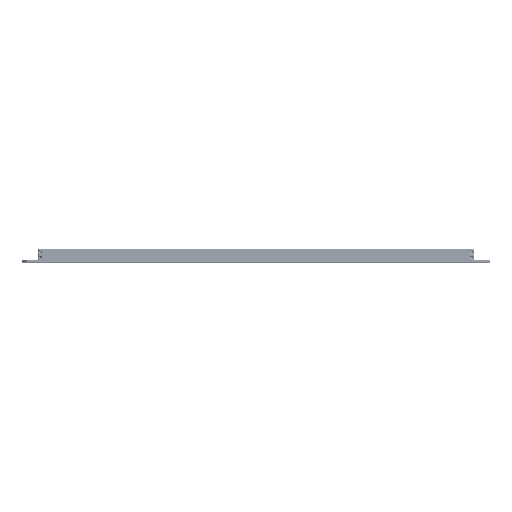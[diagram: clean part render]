
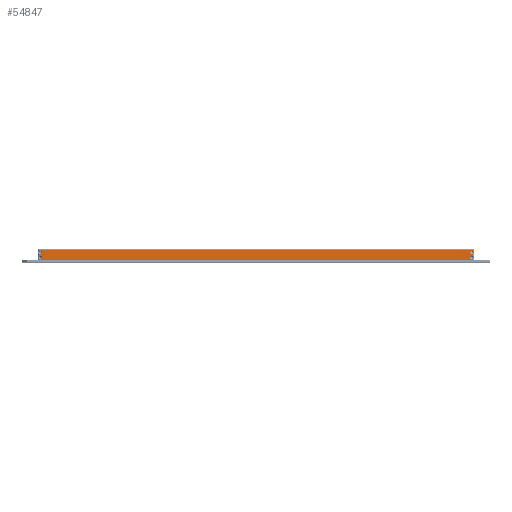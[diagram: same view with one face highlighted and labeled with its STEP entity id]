
A CAD part, top view. The second image highlights one B-rep face of the part: STEP entity #54847.
In plain terms, the highlighted planar face has unit normal (0, 0, 1).
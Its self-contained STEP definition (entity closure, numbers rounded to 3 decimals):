
#327 = CARTESIAN_POINT ( 'NONE',  ( 400.7, 5., 8. ) ) ;
#489 = DIRECTION ( 'NONE',  ( 0., 0., 1. ) ) ;
#1541 = DIRECTION ( 'NONE',  ( 0., 1., 0. ) ) ;
#1639 = EDGE_CURVE ( 'NONE', #73452, #92652, #13986, .T. ) ;
#1817 = VERTEX_POINT ( 'NONE', #12884 ) ;
#2917 = VERTEX_POINT ( 'NONE', #9311 ) ;
#3929 = VERTEX_POINT ( 'NONE', #173608 ) ;
#4392 = DIRECTION ( 'NONE',  ( 0., 0., 1. ) ) ;
#5720 = CARTESIAN_POINT ( 'NONE',  ( -404., 5., 8. ) ) ;
#6444 = EDGE_CURVE ( 'NONE', #96004, #97749, #76561, .T. ) ;
#6685 = VERTEX_POINT ( 'NONE', #77256 ) ;
#6818 = ORIENTED_EDGE ( 'NONE', *, *, #6444, .T. ) ;
#7131 = CARTESIAN_POINT ( 'NONE',  ( -407., 0., 8. ) ) ;
#9163 = EDGE_CURVE ( 'NONE', #73452, #96004, #36828, .T. ) ;
#9311 = CARTESIAN_POINT ( 'NONE',  ( -407., -3.625, 8. ) ) ;
#10284 = CARTESIAN_POINT ( 'NONE',  ( 407., -9., 8. ) ) ;
#11848 = CARTESIAN_POINT ( 'NONE',  ( 407., 0., 8. ) ) ;
#12884 = CARTESIAN_POINT ( 'NONE',  ( -407., 6.375, 8. ) ) ;
#13986 = CIRCLE ( 'NONE', #78662, 3.3 ) ;
#14481 = DIRECTION ( 'NONE',  ( 0., 0., 1. ) ) ;
#14765 = VERTEX_POINT ( 'NONE', #67935 ) ;
#17517 = CARTESIAN_POINT ( 'NONE',  ( -407., 9., 8. ) ) ;
#19002 = CARTESIAN_POINT ( 'NONE',  ( -408., -9., 8. ) ) ;
#19385 = AXIS2_PLACEMENT_3D ( 'NONE', #91627, #4392, #106346 ) ;
#20329 = DIRECTION ( 'NONE',  ( 1., 0., 0. ) ) ;
#23528 = CARTESIAN_POINT ( 'NONE',  ( -404., 5., 8. ) ) ;
#25428 = EDGE_CURVE ( 'NONE', #55009, #6685, #102561, .T. ) ;
#26587 = LINE ( 'NONE', #19002, #35728 ) ;
#28986 = EDGE_CURVE ( 'NONE', #97749, #1817, #129435, .T. ) ;
#29259 = EDGE_CURVE ( 'NONE', #3929, #6685, #181559, .T. ) ;
#35728 = VECTOR ( 'NONE', #120866, 1000. ) ;
#35946 = ORIENTED_EDGE ( 'NONE', *, *, #57669, .F. ) ;
#36828 = LINE ( 'NONE', #11848, #148314 ) ;
#37897 = VECTOR ( 'NONE', #58236, 1000. ) ;
#38127 = DIRECTION ( 'NONE',  ( 1., 0., 0. ) ) ;
#41387 = ORIENTED_EDGE ( 'NONE', *, *, #28986, .T. ) ;
#41533 = DIRECTION ( 'NONE',  ( 0., 0., 1. ) ) ;
#44385 = ORIENTED_EDGE ( 'NONE', *, *, #29259, .F. ) ;
#46646 = EDGE_CURVE ( 'NONE', #168543, #3929, #159337, .T. ) ;
#47578 = CIRCLE ( 'NONE', #69871, 3.3 ) ;
#47830 = CARTESIAN_POINT ( 'NONE',  ( -404., -5., 8. ) ) ;
#51863 = LINE ( 'NONE', #129863, #120244 ) ;
#52897 = AXIS2_PLACEMENT_3D ( 'NONE', #47830, #149558, #62431 ) ;
#53502 = ORIENTED_EDGE ( 'NONE', *, *, #9163, .T. ) ;
#54847 = ADVANCED_FACE ( 'NONE', ( #59410 ), #61869, .F. ) ;
#55009 = VERTEX_POINT ( 'NONE', #10284 ) ;
#57097 = ORIENTED_EDGE ( 'NONE', *, *, #141337, .F. ) ;
#57669 = EDGE_CURVE ( 'NONE', #91112, #2917, #111978, .T. ) ;
#58236 = DIRECTION ( 'NONE',  ( -1., 0., 0. ) ) ;
#59410 = FACE_OUTER_BOUND ( 'NONE', #159371, .T. ) ;
#61742 = VECTOR ( 'NONE', #94945, 1000. ) ;
#61869 = PLANE ( 'NONE',  #119555 ) ;
#62431 = DIRECTION ( 'NONE',  ( 1., 0., 0. ) ) ;
#67935 = CARTESIAN_POINT ( 'NONE',  ( -400.7, 5., 8. ) ) ;
#68114 = CARTESIAN_POINT ( 'NONE',  ( -407., 0., 8. ) ) ;
#69871 = AXIS2_PLACEMENT_3D ( 'NONE', #23528, #125319, #38127 ) ;
#73452 = VERTEX_POINT ( 'NONE', #114357 ) ;
#74308 = ORIENTED_EDGE ( 'NONE', *, *, #151349, .T. ) ;
#74464 = ORIENTED_EDGE ( 'NONE', *, *, #124409, .F. ) ;
#74664 = EDGE_CURVE ( 'NONE', #131022, #55009, #26587, .T. ) ;
#75889 = CARTESIAN_POINT ( 'NONE',  ( 0., 0., 8. ) ) ;
#76511 = DIRECTION ( 'NONE',  ( -1., 0., 0. ) ) ;
#76561 = LINE ( 'NONE', #115620, #37897 ) ;
#77256 = CARTESIAN_POINT ( 'NONE',  ( 407., -6.375, 8. ) ) ;
#78662 = AXIS2_PLACEMENT_3D ( 'NONE', #81566, #183432, #96361 ) ;
#81337 = CIRCLE ( 'NONE', #52897, 3.3 ) ;
#81566 = CARTESIAN_POINT ( 'NONE',  ( 404., 5., 8. ) ) ;
#82717 = DIRECTION ( 'NONE',  ( 0., -1., 0. ) ) ;
#83170 = CARTESIAN_POINT ( 'NONE',  ( -400.7, -5., 8. ) ) ;
#84307 = DIRECTION ( 'NONE',  ( 0., 1., 0. ) ) ;
#87651 = CARTESIAN_POINT ( 'NONE',  ( -404., -5., 8. ) ) ;
#88515 = AXIS2_PLACEMENT_3D ( 'NONE', #101725, #14481, #116346 ) ;
#88713 = ORIENTED_EDGE ( 'NONE', *, *, #99033, .F. ) ;
#91112 = VERTEX_POINT ( 'NONE', #83170 ) ;
#91627 = CARTESIAN_POINT ( 'NONE',  ( 404., -5., 8. ) ) ;
#92652 = VERTEX_POINT ( 'NONE', #327 ) ;
#94945 = DIRECTION ( 'NONE',  ( 0., -1., 0. ) ) ;
#96004 = VERTEX_POINT ( 'NONE', #120289 ) ;
#96361 = DIRECTION ( 'NONE',  ( 1., 0., 0. ) ) ;
#97749 = VERTEX_POINT ( 'NONE', #17517 ) ;
#97977 = VECTOR ( 'NONE', #1541, 1000. ) ;
#97996 = CARTESIAN_POINT ( 'NONE',  ( 407., 3.625, 8. ) ) ;
#99033 = EDGE_CURVE ( 'NONE', #14765, #1817, #135933, .T. ) ;
#101725 = CARTESIAN_POINT ( 'NONE',  ( 404., 5., 8. ) ) ;
#101798 = DIRECTION ( 'NONE',  ( 0., 1., 0. ) ) ;
#102376 = DIRECTION ( 'NONE',  ( 1., 0., 0. ) ) ;
#102441 = ORIENTED_EDGE ( 'NONE', *, *, #150861, .F. ) ;
#102561 = LINE ( 'NONE', #118063, #97977 ) ;
#104380 = CARTESIAN_POINT ( 'NONE',  ( -407., 3.625, 8. ) ) ;
#105053 = ORIENTED_EDGE ( 'NONE', *, *, #187025, .T. ) ;
#105136 = LINE ( 'NONE', #7131, #61742 ) ;
#106346 = DIRECTION ( 'NONE',  ( 1., 0., 0. ) ) ;
#107605 = DIRECTION ( 'NONE',  ( 0., 0., 1. ) ) ;
#111978 = CIRCLE ( 'NONE', #132062, 3.3 ) ;
#114357 = CARTESIAN_POINT ( 'NONE',  ( 407., 6.375, 8. ) ) ;
#115620 = CARTESIAN_POINT ( 'NONE',  ( -408., 9., 8. ) ) ;
#116346 = DIRECTION ( 'NONE',  ( 1., 0., 0. ) ) ;
#117358 = CARTESIAN_POINT ( 'NONE',  ( -407., -9., 8. ) ) ;
#118063 = CARTESIAN_POINT ( 'NONE',  ( 407., 0., 8. ) ) ;
#119555 = AXIS2_PLACEMENT_3D ( 'NONE', #75889, #163666, #76511 ) ;
#119717 = ORIENTED_EDGE ( 'NONE', *, *, #25428, .T. ) ;
#120244 = VECTOR ( 'NONE', #173707, 1000. ) ;
#120289 = CARTESIAN_POINT ( 'NONE',  ( 407., 9., 8. ) ) ;
#120309 = VECTOR ( 'NONE', #82717, 1000. ) ;
#120866 = DIRECTION ( 'NONE',  ( 1., 0., 0. ) ) ;
#123073 = CARTESIAN_POINT ( 'NONE',  ( 407., -3.625, 8. ) ) ;
#124011 = ORIENTED_EDGE ( 'NONE', *, *, #74664, .T. ) ;
#124409 = EDGE_CURVE ( 'NONE', #92652, #134229, #131965, .T. ) ;
#125319 = DIRECTION ( 'NONE',  ( 0., 0., 1. ) ) ;
#126240 = CARTESIAN_POINT ( 'NONE',  ( -407., -6.375, 8. ) ) ;
#126633 = ORIENTED_EDGE ( 'NONE', *, *, #46646, .F. ) ;
#128751 = CARTESIAN_POINT ( 'NONE',  ( 404., -5., 8. ) ) ;
#129435 = LINE ( 'NONE', #68114, #120309 ) ;
#129863 = CARTESIAN_POINT ( 'NONE',  ( -407., 0., 8. ) ) ;
#131022 = VERTEX_POINT ( 'NONE', #117358 ) ;
#131965 = CIRCLE ( 'NONE', #88515, 3.3 ) ;
#132062 = AXIS2_PLACEMENT_3D ( 'NONE', #87651, #489, #102376 ) ;
#134229 = VERTEX_POINT ( 'NONE', #97996 ) ;
#135291 = VERTEX_POINT ( 'NONE', #126240 ) ;
#135933 = CIRCLE ( 'NONE', #173464, 3.3 ) ;
#136016 = EDGE_CURVE ( 'NONE', #135291, #131022, #51863, .T. ) ;
#141337 = EDGE_CURVE ( 'NONE', #157505, #14765, #47578, .T. ) ;
#143288 = DIRECTION ( 'NONE',  ( 1., 0., 0. ) ) ;
#147546 = VECTOR ( 'NONE', #101798, 1000. ) ;
#148314 = VECTOR ( 'NONE', #84307, 1000. ) ;
#149558 = DIRECTION ( 'NONE',  ( 0., 0., 1. ) ) ;
#150861 = EDGE_CURVE ( 'NONE', #135291, #91112, #81337, .T. ) ;
#151349 = EDGE_CURVE ( 'NONE', #168543, #134229, #186241, .T. ) ;
#152015 = AXIS2_PLACEMENT_3D ( 'NONE', #128751, #41533, #143288 ) ;
#157505 = VERTEX_POINT ( 'NONE', #104380 ) ;
#159337 = CIRCLE ( 'NONE', #152015, 3.3 ) ;
#159371 = EDGE_LOOP ( 'NONE', ( #74308, #74464, #161256, #53502, #6818, #41387, #88713, #57097, #105053, #35946, #102441, #172234, #124011, #119717, #44385, #126633 ) ) ;
#159663 = CARTESIAN_POINT ( 'NONE',  ( 407., 0., 8. ) ) ;
#161256 = ORIENTED_EDGE ( 'NONE', *, *, #1639, .F. ) ;
#163666 = DIRECTION ( 'NONE',  ( 0., 0., -1. ) ) ;
#168543 = VERTEX_POINT ( 'NONE', #123073 ) ;
#172234 = ORIENTED_EDGE ( 'NONE', *, *, #136016, .T. ) ;
#173464 = AXIS2_PLACEMENT_3D ( 'NONE', #5720, #107605, #20329 ) ;
#173608 = CARTESIAN_POINT ( 'NONE',  ( 400.7, -5., 8. ) ) ;
#173707 = DIRECTION ( 'NONE',  ( 0., -1., 0. ) ) ;
#181559 = CIRCLE ( 'NONE', #19385, 3.3 ) ;
#183432 = DIRECTION ( 'NONE',  ( 0., 0., 1. ) ) ;
#186241 = LINE ( 'NONE', #159663, #147546 ) ;
#187025 = EDGE_CURVE ( 'NONE', #157505, #2917, #105136, .T. ) ;
